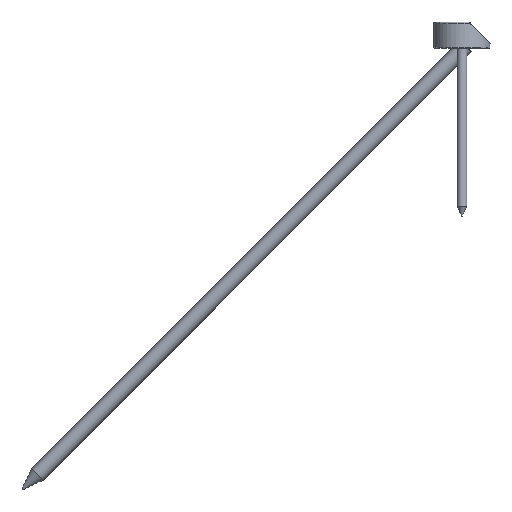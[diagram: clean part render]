
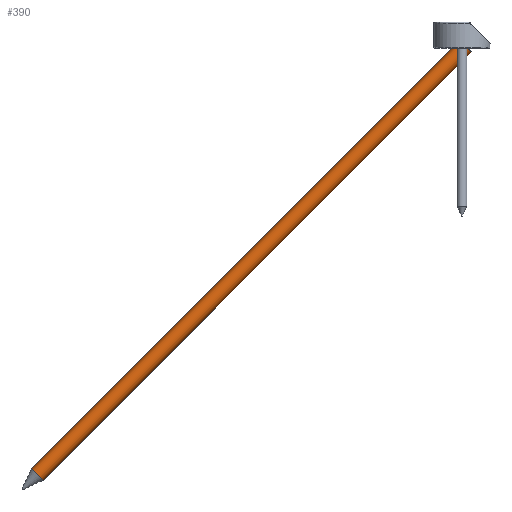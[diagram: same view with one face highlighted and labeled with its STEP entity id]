
A CAD part, left-side view. The second image highlights one B-rep face of the part: STEP entity #390.
In plain terms, the highlighted cylindrical face has radius 5 mm (diameter 10 mm), a full revolution.
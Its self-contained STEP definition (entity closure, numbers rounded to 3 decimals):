
#59=CYLINDRICAL_SURFACE('',#480,5.);
#91=CIRCLE('',#479,5.);
#92=CIRCLE('',#481,5.);
#165=ORIENTED_EDGE('',*,*,#206,.T.);
#166=ORIENTED_EDGE('',*,*,#205,.F.);
#205=EDGE_CURVE('',#238,#238,#91,.T.);
#206=EDGE_CURVE('',#239,#239,#92,.T.);
#238=VERTEX_POINT('',#733);
#239=VERTEX_POINT('',#736);
#297=EDGE_LOOP('',(#165));
#298=EDGE_LOOP('',(#166));
#350=FACE_BOUND('',#297,.T.);
#351=FACE_BOUND('',#298,.T.);
#390=ADVANCED_FACE('',(#350,#351),#59,.T.);
#479=AXIS2_PLACEMENT_3D('',#732,#602,#603);
#480=AXIS2_PLACEMENT_3D('',#734,#604,#605);
#481=AXIS2_PLACEMENT_3D('',#735,#606,#607);
#602=DIRECTION('',(0.,1.,0.));
#603=DIRECTION('',(0.,0.,1.));
#604=DIRECTION('',(0.,1.,0.));
#605=DIRECTION('',(0.,0.,1.));
#606=DIRECTION('',(0.,1.,0.));
#607=DIRECTION('',(0.,0.,1.));
#732=CARTESIAN_POINT('',(0.,42.,0.));
#733=CARTESIAN_POINT('',(0.,42.,5.));
#734=CARTESIAN_POINT('',(0.,54.,0.));
#735=CARTESIAN_POINT('',(0.,-333.,0.));
#736=CARTESIAN_POINT('',(0.,-333.,5.));
